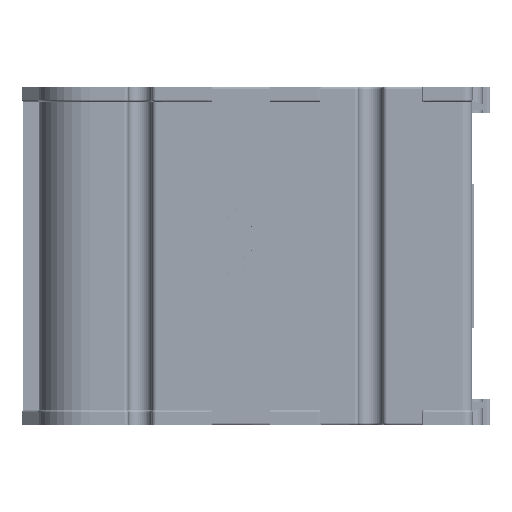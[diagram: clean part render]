
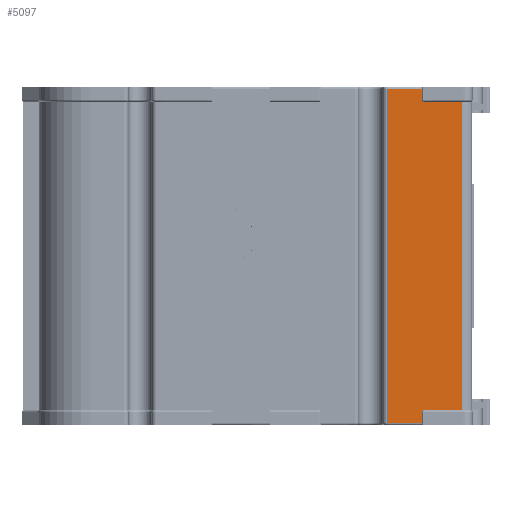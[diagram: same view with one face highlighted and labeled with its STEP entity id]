
A CAD part, left-side view. The second image highlights one B-rep face of the part: STEP entity #5097.
In plain terms, the highlighted planar face has unit normal (-1, 0, 0).
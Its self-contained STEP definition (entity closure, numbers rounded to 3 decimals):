
#5097=ADVANCED_FACE('',(#9123),#7675,.F.);
#7675=PLANE('',#46917);
#9123=FACE_OUTER_BOUND('',#11474,.T.);
#11474=EDGE_LOOP('',(#14662,#14663,#14664,#14665,#14666,#14667,#14668,#14669));
#14662=ORIENTED_EDGE('',*,*,#32557,.T.);
#14663=ORIENTED_EDGE('',*,*,#32558,.T.);
#14664=ORIENTED_EDGE('',*,*,#32559,.F.);
#14665=ORIENTED_EDGE('',*,*,#32560,.F.);
#14666=ORIENTED_EDGE('',*,*,#32561,.T.);
#14667=ORIENTED_EDGE('',*,*,#32529,.T.);
#14668=ORIENTED_EDGE('',*,*,#32562,.F.);
#14669=ORIENTED_EDGE('',*,*,#32563,.T.);
#28025=VERTEX_POINT('',#61167);
#28026=VERTEX_POINT('',#61169);
#28048=VERTEX_POINT('',#61225);
#28049=VERTEX_POINT('',#61226);
#28050=VERTEX_POINT('',#61228);
#28051=VERTEX_POINT('',#61230);
#28052=VERTEX_POINT('',#61232);
#28053=VERTEX_POINT('',#61235);
#32529=EDGE_CURVE('',#28026,#28025,#39241,.T.);
#32557=EDGE_CURVE('',#28048,#28049,#39263,.T.);
#32558=EDGE_CURVE('',#28049,#28050,#39264,.T.);
#32559=EDGE_CURVE('',#28051,#28050,#39265,.T.);
#32560=EDGE_CURVE('',#28052,#28051,#39266,.T.);
#32561=EDGE_CURVE('',#28052,#28026,#39267,.T.);
#32562=EDGE_CURVE('',#28053,#28025,#39268,.T.);
#32563=EDGE_CURVE('',#28053,#28048,#39269,.T.);
#39241=LINE('',#61168,#43064);
#39263=LINE('',#61224,#43086);
#39264=LINE('',#61227,#43087);
#39265=LINE('',#61229,#43088);
#39266=LINE('',#61231,#43089);
#39267=LINE('',#61233,#43090);
#39268=LINE('',#61234,#43091);
#39269=LINE('',#61236,#43092);
#43064=VECTOR('',#50368,1.);
#43086=VECTOR('',#50414,1.);
#43087=VECTOR('',#50415,1.);
#43088=VECTOR('',#50416,1.);
#43089=VECTOR('',#50417,1.);
#43090=VECTOR('',#50418,1.);
#43091=VECTOR('',#50419,1.);
#43092=VECTOR('',#50420,1.);
#46917=AXIS2_PLACEMENT_3D('',#61237,#50421,#50422);
#50368=DIRECTION('',(0.,1.,0.));
#50414=DIRECTION('',(0.,0.,-1.));
#50415=DIRECTION('',(0.,-1.,0.));
#50416=DIRECTION('',(0.,0.,-1.));
#50417=DIRECTION('',(0.,1.,0.));
#50418=DIRECTION('',(0.,0.,1.));
#50419=DIRECTION('',(0.,0.,-1.));
#50420=DIRECTION('',(0.,1.,0.));
#50421=DIRECTION('',(1.,0.,0.));
#50422=DIRECTION('',(0.,1.,0.));
#61167=CARTESIAN_POINT('',(4.487,33.434,-9.9));
#61168=CARTESIAN_POINT('',(4.487,26.184,-9.9));
#61169=CARTESIAN_POINT('',(4.487,25.984,-9.9));
#61224=CARTESIAN_POINT('',(4.487,40.184,-68.5));
#61225=CARTESIAN_POINT('',(4.487,40.184,-7.4));
#61226=CARTESIAN_POINT('',(4.487,40.184,-71.));
#61227=CARTESIAN_POINT('',(4.487,26.184,-71.));
#61228=CARTESIAN_POINT('',(4.487,33.434,-71.));
#61229=CARTESIAN_POINT('',(4.487,33.434,-68.5));
#61230=CARTESIAN_POINT('',(4.487,33.434,-68.5));
#61231=CARTESIAN_POINT('',(4.487,26.184,-68.5));
#61232=CARTESIAN_POINT('',(4.487,25.984,-68.5));
#61233=CARTESIAN_POINT('',(4.487,25.984,-39.2));
#61234=CARTESIAN_POINT('',(4.487,33.434,-68.5));
#61235=CARTESIAN_POINT('',(4.487,33.434,-7.4));
#61236=CARTESIAN_POINT('',(4.487,40.184,-7.4));
#61237=CARTESIAN_POINT('',(4.487,26.184,-68.5));
